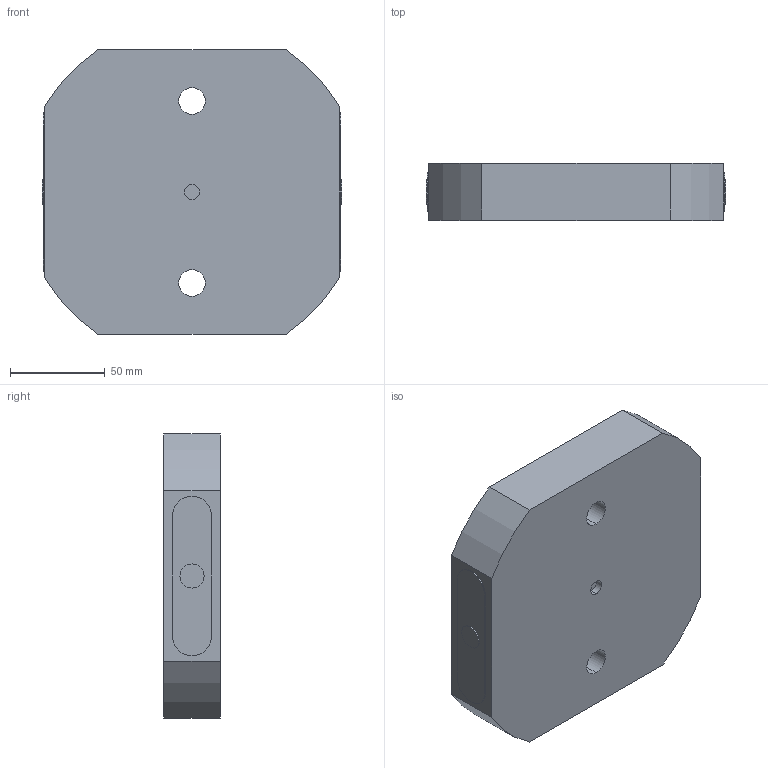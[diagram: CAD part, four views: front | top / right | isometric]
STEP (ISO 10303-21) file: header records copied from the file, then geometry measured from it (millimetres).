
FILE_DESCRIPTION (( 'STEP AP214' ), '1' );
FILE_NAME ('D_RL96A-6695.STEP', '2020-03-11T17:48:11', ( '' ), ( '' ), 'SwSTEP 2.0', 'SolidWorks 2018', '' );
FILE_SCHEMA (( 'AUTOMOTIVE_DESIGN' ));
Length unit declared in the file: inch
Products named in the file (1): D_RL96A-6695
Bounding box: 158 x 30 x 150 mm (x, y, z)
Volume: 506442.7 mm3; surface area: 98153.9 mm2
Topology: 1 solids, 1 shells, 165 faces, 400 edges, 264 vertices
Faces by surface type: cylinder 102, plane 59, cone 4
Entity records: 6070 total; most frequent: CARTESIAN_POINT 1346, DIRECTION 904, ORIENTED_EDGE 792, EDGE_CURVE 396, AXIS2_PLACEMENT_3D 372, VERTEX_POINT 264, EDGE_LOOP 208, CIRCLE 206
